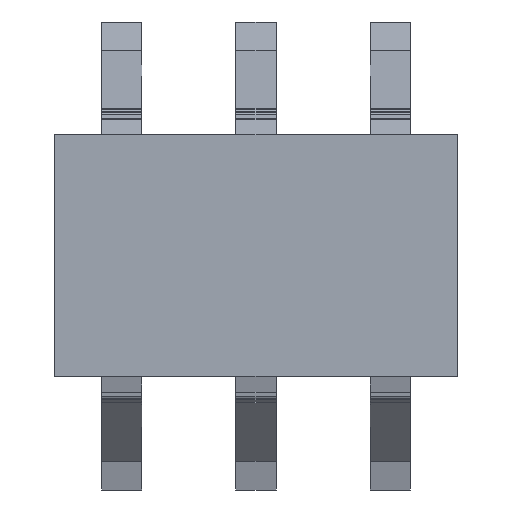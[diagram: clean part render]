
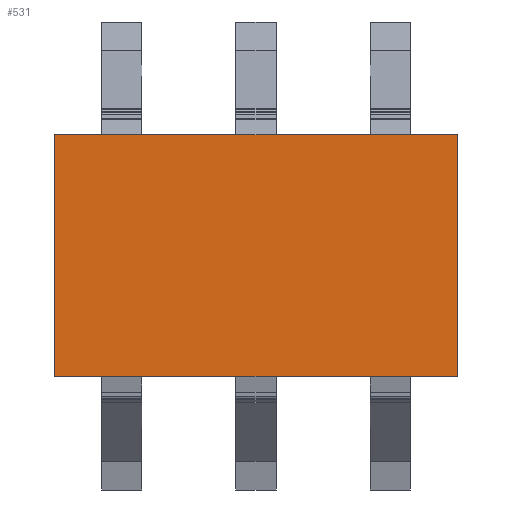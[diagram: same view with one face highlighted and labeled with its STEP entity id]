
A CAD part, top view. The second image highlights one B-rep face of the part: STEP entity #531.
In plain terms, the highlighted planar face has unit normal (0, 0, 1).
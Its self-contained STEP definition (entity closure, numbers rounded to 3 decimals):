
#24 = VERTEX_POINT('',#25);
#25 = CARTESIAN_POINT('',(0.,-0.9,1.3));
#32 = PLANE('',#33);
#33 = AXIS2_PLACEMENT_3D('',#34,#35,#36);
#34 = CARTESIAN_POINT('',(0.,-0.9,0.15));
#35 = DIRECTION('',(1.,0.,0.));
#36 = DIRECTION('',(0.,0.,1.));
#44 = PLANE('',#45);
#45 = AXIS2_PLACEMENT_3D('',#46,#47,#48);
#46 = CARTESIAN_POINT('',(0.,-0.9,0.15));
#47 = DIRECTION('',(0.,1.,0.));
#48 = DIRECTION('',(0.,0.,1.));
#85 = VERTEX_POINT('',#86);
#86 = CARTESIAN_POINT('',(0.,0.9,1.3));
#100 = PLANE('',#101);
#101 = AXIS2_PLACEMENT_3D('',#102,#103,#104);
#102 = CARTESIAN_POINT('',(0.,0.9,0.15));
#103 = DIRECTION('',(0.,1.,0.));
#104 = DIRECTION('',(0.,0.,1.));
#112 = EDGE_CURVE('',#24,#85,#113,.T.);
#113 = SURFACE_CURVE('',#114,(#118,#125),.PCURVE_S1.);
#114 = LINE('',#115,#116);
#115 = CARTESIAN_POINT('',(0.,-0.9,1.3));
#116 = VECTOR('',#117,1.);
#117 = DIRECTION('',(0.,1.,0.));
#118 = PCURVE('',#32,#119);
#119 = DEFINITIONAL_REPRESENTATION('',(#120),#124);
#120 = LINE('',#121,#122);
#121 = CARTESIAN_POINT('',(1.15,0.));
#122 = VECTOR('',#123,1.);
#123 = DIRECTION('',(0.,-1.));
#124 = ( GEOMETRIC_REPRESENTATION_CONTEXT(2) 
PARAMETRIC_REPRESENTATION_CONTEXT() REPRESENTATION_CONTEXT('2D SPACE',''
  ) );
#125 = PCURVE('',#126,#131);
#126 = PLANE('',#127);
#127 = AXIS2_PLACEMENT_3D('',#128,#129,#130);
#128 = CARTESIAN_POINT('',(0.,-0.9,1.3));
#129 = DIRECTION('',(0.,0.,1.));
#130 = DIRECTION('',(1.,0.,0.));
#131 = DEFINITIONAL_REPRESENTATION('',(#132),#136);
#132 = LINE('',#133,#134);
#133 = CARTESIAN_POINT('',(0.,0.));
#134 = VECTOR('',#135,1.);
#135 = DIRECTION('',(0.,1.));
#136 = ( GEOMETRIC_REPRESENTATION_CONTEXT(2) 
PARAMETRIC_REPRESENTATION_CONTEXT() REPRESENTATION_CONTEXT('2D SPACE',''
  ) );
#165 = EDGE_CURVE('',#24,#166,#168,.T.);
#166 = VERTEX_POINT('',#167);
#167 = CARTESIAN_POINT('',(3.,-0.9,1.3));
#168 = SURFACE_CURVE('',#169,(#173,#180),.PCURVE_S1.);
#169 = LINE('',#170,#171);
#170 = CARTESIAN_POINT('',(0.,-0.9,1.3));
#171 = VECTOR('',#172,1.);
#172 = DIRECTION('',(1.,0.,0.));
#173 = PCURVE('',#44,#174);
#174 = DEFINITIONAL_REPRESENTATION('',(#175),#179);
#175 = LINE('',#176,#177);
#176 = CARTESIAN_POINT('',(1.15,0.));
#177 = VECTOR('',#178,1.);
#178 = DIRECTION('',(0.,1.));
#179 = ( GEOMETRIC_REPRESENTATION_CONTEXT(2) 
PARAMETRIC_REPRESENTATION_CONTEXT() REPRESENTATION_CONTEXT('2D SPACE',''
  ) );
#180 = PCURVE('',#126,#181);
#181 = DEFINITIONAL_REPRESENTATION('',(#182),#186);
#182 = LINE('',#183,#184);
#183 = CARTESIAN_POINT('',(0.,0.));
#184 = VECTOR('',#185,1.);
#185 = DIRECTION('',(1.,0.));
#186 = ( GEOMETRIC_REPRESENTATION_CONTEXT(2) 
PARAMETRIC_REPRESENTATION_CONTEXT() REPRESENTATION_CONTEXT('2D SPACE',''
  ) );
#202 = PLANE('',#203);
#203 = AXIS2_PLACEMENT_3D('',#204,#205,#206);
#204 = CARTESIAN_POINT('',(3.,-0.9,0.15));
#205 = DIRECTION('',(1.,0.,0.));
#206 = DIRECTION('',(0.,0.,1.));
#531 = ADVANCED_FACE('',(#532),#126,.T.);
#532 = FACE_BOUND('',#533,.T.);
#533 = EDGE_LOOP('',(#534,#535,#536,#559));
#534 = ORIENTED_EDGE('',*,*,#112,.F.);
#535 = ORIENTED_EDGE('',*,*,#165,.T.);
#536 = ORIENTED_EDGE('',*,*,#537,.T.);
#537 = EDGE_CURVE('',#166,#538,#540,.T.);
#538 = VERTEX_POINT('',#539);
#539 = CARTESIAN_POINT('',(3.,0.9,1.3));
#540 = SURFACE_CURVE('',#541,(#545,#552),.PCURVE_S1.);
#541 = LINE('',#542,#543);
#542 = CARTESIAN_POINT('',(3.,-0.9,1.3));
#543 = VECTOR('',#544,1.);
#544 = DIRECTION('',(0.,1.,0.));
#545 = PCURVE('',#126,#546);
#546 = DEFINITIONAL_REPRESENTATION('',(#547),#551);
#547 = LINE('',#548,#549);
#548 = CARTESIAN_POINT('',(3.,0.));
#549 = VECTOR('',#550,1.);
#550 = DIRECTION('',(0.,1.));
#551 = ( GEOMETRIC_REPRESENTATION_CONTEXT(2) 
PARAMETRIC_REPRESENTATION_CONTEXT() REPRESENTATION_CONTEXT('2D SPACE',''
  ) );
#552 = PCURVE('',#202,#553);
#553 = DEFINITIONAL_REPRESENTATION('',(#554),#558);
#554 = LINE('',#555,#556);
#555 = CARTESIAN_POINT('',(1.15,0.));
#556 = VECTOR('',#557,1.);
#557 = DIRECTION('',(0.,-1.));
#558 = ( GEOMETRIC_REPRESENTATION_CONTEXT(2) 
PARAMETRIC_REPRESENTATION_CONTEXT() REPRESENTATION_CONTEXT('2D SPACE',''
  ) );
#559 = ORIENTED_EDGE('',*,*,#560,.F.);
#560 = EDGE_CURVE('',#85,#538,#561,.T.);
#561 = SURFACE_CURVE('',#562,(#566,#573),.PCURVE_S1.);
#562 = LINE('',#563,#564);
#563 = CARTESIAN_POINT('',(0.,0.9,1.3));
#564 = VECTOR('',#565,1.);
#565 = DIRECTION('',(1.,0.,0.));
#566 = PCURVE('',#126,#567);
#567 = DEFINITIONAL_REPRESENTATION('',(#568),#572);
#568 = LINE('',#569,#570);
#569 = CARTESIAN_POINT('',(0.,1.8));
#570 = VECTOR('',#571,1.);
#571 = DIRECTION('',(1.,0.));
#572 = ( GEOMETRIC_REPRESENTATION_CONTEXT(2) 
PARAMETRIC_REPRESENTATION_CONTEXT() REPRESENTATION_CONTEXT('2D SPACE',''
  ) );
#573 = PCURVE('',#100,#574);
#574 = DEFINITIONAL_REPRESENTATION('',(#575),#579);
#575 = LINE('',#576,#577);
#576 = CARTESIAN_POINT('',(1.15,0.));
#577 = VECTOR('',#578,1.);
#578 = DIRECTION('',(0.,1.));
#579 = ( GEOMETRIC_REPRESENTATION_CONTEXT(2) 
PARAMETRIC_REPRESENTATION_CONTEXT() REPRESENTATION_CONTEXT('2D SPACE',''
  ) );
